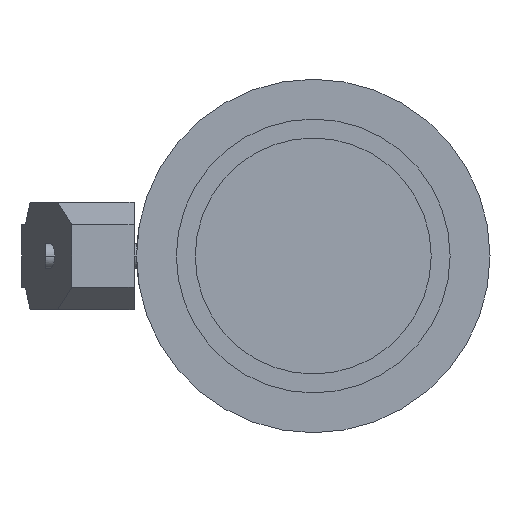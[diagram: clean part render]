
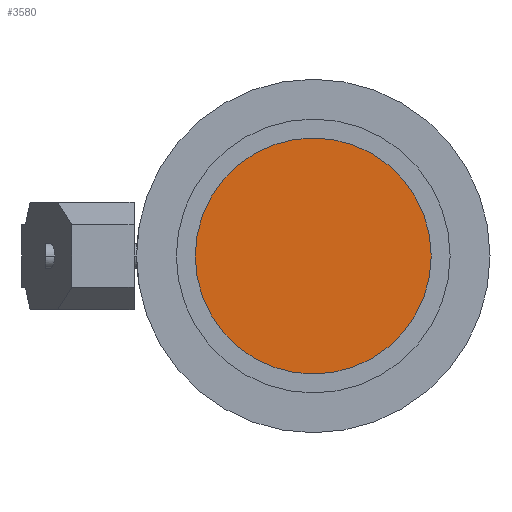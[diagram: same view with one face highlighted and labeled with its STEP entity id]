
A CAD part, left-side view. The second image highlights one B-rep face of the part: STEP entity #3580.
In plain terms, the highlighted planar face has unit normal (-1, 0, 0).
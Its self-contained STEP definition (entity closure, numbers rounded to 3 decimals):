
#2730=CARTESIAN_POINT('',(-290.595,85.275,
0.));
#2740=VERTEX_POINT('',#2730);
#2790=CARTESIAN_POINT('',(-290.595,37.875,0.));
#2800=DIRECTION('',(-1.,0.,0.));
#2810=DIRECTION('',(0.,-1.,0.));
#2820=AXIS2_PLACEMENT_3D('',#2790,#2800,#2810);
#2830=CIRCLE('',#2820,47.4);
#2840=CARTESIAN_POINT('',(-290.595,-9.525,0.));
#2850=VERTEX_POINT('',#2840);
#2860=EDGE_CURVE('',#2740,#2850,#2830,.T.);
#3480=CARTESIAN_POINT('',(-290.595,12.651,
31.768));
#3490=DIRECTION('',(-1.,0.,0.));
#3500=DIRECTION('',(0.,-1.,0.));
#3510=AXIS2_PLACEMENT_3D('',#3480,#3490,#3500);
#3520=PLANE('',#3510);
#3530=EDGE_CURVE('',#2850,#2740,#2830,.T.);
#3540=ORIENTED_EDGE('',*,*,#3530,.T.);
#3550=ORIENTED_EDGE('',*,*,#2860,.T.);
#3560=EDGE_LOOP('',(#3550,#3540));
#3570=FACE_OUTER_BOUND('',#3560,.T.);
#3580=ADVANCED_FACE('',(#3570),#3520,.T.);
